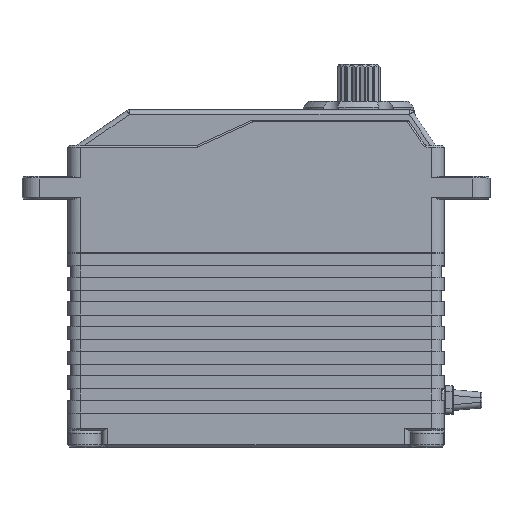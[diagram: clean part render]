
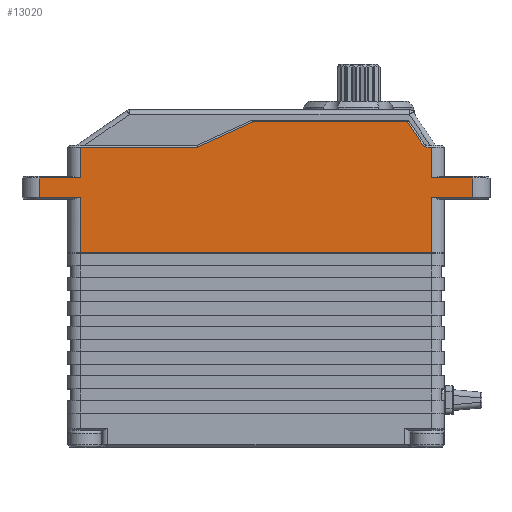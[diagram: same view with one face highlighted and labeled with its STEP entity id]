
A CAD part, top view. The second image highlights one B-rep face of the part: STEP entity #13020.
In plain terms, the highlighted planar face has unit normal (0, 0, 1).
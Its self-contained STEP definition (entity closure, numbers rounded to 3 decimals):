
#311=DIRECTION('',(0.,1.,0.));
#312=VECTOR('',#311,9.685);
#313=CARTESIAN_POINT('',(30.7,0.015,15.));
#314=LINE('',#313,#312);
#423=DIRECTION('',(1.,0.,0.));
#424=VECTOR('',#423,61.4);
#425=CARTESIAN_POINT('',(-30.7,0.015,15.));
#426=LINE('',#425,#424);
#427=DIRECTION('',(0.,1.,0.));
#428=VECTOR('',#427,9.685);
#429=CARTESIAN_POINT('',(-30.7,0.015,15.));
#430=LINE('',#429,#428);
#431=DIRECTION('',(-1.,0.,0.));
#432=VECTOR('',#431,7.2);
#433=CARTESIAN_POINT('',(-30.7,9.7,15.));
#434=LINE('',#433,#432);
#435=DIRECTION('',(0.,-1.,0.));
#436=VECTOR('',#435,3.4);
#437=CARTESIAN_POINT('',(-37.9,13.1,15.));
#438=LINE('',#437,#436);
#439=DIRECTION('',(1.,0.,0.));
#440=VECTOR('',#439,7.2);
#441=CARTESIAN_POINT('',(-37.9,13.1,15.));
#442=LINE('',#441,#440);
#443=DIRECTION('',(-1.,0.,0.));
#444=VECTOR('',#443,20.292);
#445=CARTESIAN_POINT('',(-10.408,18.5,15.));
#446=LINE('',#445,#444);
#447=CARTESIAN_POINT('',(-10.408,19.3,15.));
#448=DIRECTION('',(0.,0.,-1.));
#449=DIRECTION('',(0.414,-0.91,0.));
#450=AXIS2_PLACEMENT_3D('',#447,#448,#449);
#452=DIRECTION('',(-0.91,-0.414,0.));
#453=VECTOR('',#452,10.414);
#454=CARTESIAN_POINT('',(-0.597,22.882,15.));
#455=LINE('',#454,#453);
#456=CARTESIAN_POINT('',(-0.514,22.7,15.));
#457=DIRECTION('',(0.,0.,1.));
#458=DIRECTION('',(0.,1.,0.));
#459=AXIS2_PLACEMENT_3D('',#456,#457,#458);
#461=DIRECTION('',(-1.,0.,0.));
#462=VECTOR('',#461,26.871);
#463=CARTESIAN_POINT('',(26.357,22.9,15.));
#464=LINE('',#463,#462);
#465=CARTESIAN_POINT('',(26.357,22.7,15.));
#466=DIRECTION('',(0.,0.,1.));
#467=DIRECTION('',(0.829,0.559,0.));
#468=AXIS2_PLACEMENT_3D('',#465,#466,#467);
#470=DIRECTION('',(-0.559,0.829,0.));
#471=VECTOR('',#470,4.776);
#472=CARTESIAN_POINT('',(29.193,18.853,15.));
#473=LINE('',#472,#471);
#474=CARTESIAN_POINT('',(29.857,19.3,15.));
#475=DIRECTION('',(0.,0.,-1.));
#476=DIRECTION('',(0.,-1.,0.));
#477=AXIS2_PLACEMENT_3D('',#474,#475,#476);
#479=DIRECTION('',(-1.,0.,0.));
#480=VECTOR('',#479,0.843);
#481=CARTESIAN_POINT('',(30.7,18.5,15.));
#482=LINE('',#481,#480);
#483=DIRECTION('',(1.,0.,0.));
#484=VECTOR('',#483,7.2);
#485=CARTESIAN_POINT('',(30.7,13.1,15.));
#486=LINE('',#485,#484);
#487=DIRECTION('',(0.,1.,0.));
#488=VECTOR('',#487,3.4);
#489=CARTESIAN_POINT('',(37.9,9.7,15.));
#490=LINE('',#489,#488);
#491=DIRECTION('',(-1.,0.,0.));
#492=VECTOR('',#491,7.2);
#493=CARTESIAN_POINT('',(37.9,9.7,15.));
#494=LINE('',#493,#492);
#1587=DIRECTION('',(0.,1.,0.));
#1588=VECTOR('',#1587,5.4);
#1589=CARTESIAN_POINT('',(30.7,13.1,15.));
#1590=LINE('',#1589,#1588);
#1640=DIRECTION('',(0.,-1.,0.));
#1641=VECTOR('',#1640,5.4);
#1642=CARTESIAN_POINT('',(-30.7,18.5,15.));
#1643=LINE('',#1642,#1641);
#10315=CARTESIAN_POINT('',(37.9,13.1,15.));
#10316=VERTEX_POINT('',#10315);
#10319=CARTESIAN_POINT('',(30.7,13.1,15.));
#10320=VERTEX_POINT('',#10319);
#10321=CARTESIAN_POINT('',(37.9,9.7,15.));
#10322=CARTESIAN_POINT('',(30.7,9.7,15.));
#10323=VERTEX_POINT('',#10321);
#10324=VERTEX_POINT('',#10322);
#10409=CARTESIAN_POINT('',(-37.9,13.1,
15.));
#10410=CARTESIAN_POINT('',(-30.7,13.1,15.));
#10411=VERTEX_POINT('',#10409);
#10412=VERTEX_POINT('',#10410);
#10579=CARTESIAN_POINT('',(-37.9,9.7,15.));
#10580=VERTEX_POINT('',#10579);
#10583=CARTESIAN_POINT('',(-30.7,9.7,15.));
#10584=VERTEX_POINT('',#10583);
#10585=CARTESIAN_POINT('',(-30.7,18.5,15.));
#10587=VERTEX_POINT('',#10585);
#10645=CARTESIAN_POINT('',(30.7,18.5,15.));
#10646=VERTEX_POINT('',#10645);
#10649=CARTESIAN_POINT('',(29.857,18.5,15.));
#10650=VERTEX_POINT('',#10649);
#10653=CARTESIAN_POINT('',(29.193,18.853,15.));
#10654=VERTEX_POINT('',#10653);
#10657=CARTESIAN_POINT('',(26.523,22.812,15.));
#10658=VERTEX_POINT('',#10657);
#10661=CARTESIAN_POINT('',(26.357,22.9,15.));
#10662=VERTEX_POINT('',#10661);
#10665=CARTESIAN_POINT('',(-0.514,22.9,
15.));
#10666=VERTEX_POINT('',#10665);
#10669=CARTESIAN_POINT('',(-0.597,22.882,15.));
#10670=VERTEX_POINT('',#10669);
#10673=CARTESIAN_POINT('',(-10.077,18.572,15.));
#10674=VERTEX_POINT('',#10673);
#10677=CARTESIAN_POINT('',(-10.408,18.5,15.));
#10678=VERTEX_POINT('',#10677);
#12385=CARTESIAN_POINT('',(-30.7,0.015,15.));
#12386=CARTESIAN_POINT('',(30.7,0.015,15.));
#12387=VERTEX_POINT('',#12385);
#12388=VERTEX_POINT('',#12386);
#12974=CARTESIAN_POINT('',(-32.9,0.,15.));
#12975=DIRECTION('',(0.,0.,1.));
#12976=DIRECTION('',(1.,0.,0.));
#12977=AXIS2_PLACEMENT_3D('',#12974,#12975,#12976);
#12978=PLANE('',#12977);
#12980=ORIENTED_EDGE('',*,*,#12979,.F.);
#12982=ORIENTED_EDGE('',*,*,#12981,.T.);
#12984=ORIENTED_EDGE('',*,*,#12983,.T.);
#12986=ORIENTED_EDGE('',*,*,#12985,.F.);
#12988=ORIENTED_EDGE('',*,*,#12987,.T.);
#12990=ORIENTED_EDGE('',*,*,#12989,.F.);
#12992=ORIENTED_EDGE('',*,*,#12991,.F.);
#12994=ORIENTED_EDGE('',*,*,#12993,.F.);
#12996=ORIENTED_EDGE('',*,*,#12995,.F.);
#12998=ORIENTED_EDGE('',*,*,#12997,.F.);
#13000=ORIENTED_EDGE('',*,*,#12999,.F.);
#13002=ORIENTED_EDGE('',*,*,#13001,.F.);
#13004=ORIENTED_EDGE('',*,*,#13003,.F.);
#13006=ORIENTED_EDGE('',*,*,#13005,.F.);
#13008=ORIENTED_EDGE('',*,*,#13007,.F.);
#13010=ORIENTED_EDGE('',*,*,#13009,.F.);
#13012=ORIENTED_EDGE('',*,*,#13011,.T.);
#13014=ORIENTED_EDGE('',*,*,#13013,.F.);
#13016=ORIENTED_EDGE('',*,*,#13015,.T.);
#13017=ORIENTED_EDGE('',*,*,#12842,.F.);
#13018=EDGE_LOOP('',(#12980,#12982,#12984,#12986,#12988,#12990,#12992,#12994,
#12996,#12998,#13000,#13002,#13004,#13006,#13008,#13010,#13012,#13014,#13016,
#13017));
#13019=FACE_OUTER_BOUND('',#13018,.F.);
#451=CIRCLE('',#450,0.8);
#460=CIRCLE('',#459,0.2);
#469=CIRCLE('',#468,0.2);
#478=CIRCLE('',#477,0.8);
#12842=EDGE_CURVE('',#12388,#10324,#314,.T.);
#12979=EDGE_CURVE('',#12387,#12388,#426,.T.);
#12981=EDGE_CURVE('',#12387,#10584,#430,.T.);
#12983=EDGE_CURVE('',#10584,#10580,#434,.T.);
#12985=EDGE_CURVE('',#10411,#10580,#438,.T.);
#12987=EDGE_CURVE('',#10411,#10412,#442,.T.);
#12989=EDGE_CURVE('',#10587,#10412,#1643,.T.);
#12991=EDGE_CURVE('',#10678,#10587,#446,.T.);
#12993=EDGE_CURVE('',#10674,#10678,#451,.T.);
#12995=EDGE_CURVE('',#10670,#10674,#455,.T.);
#12997=EDGE_CURVE('',#10666,#10670,#460,.T.);
#12999=EDGE_CURVE('',#10662,#10666,#464,.T.);
#13001=EDGE_CURVE('',#10658,#10662,#469,.T.);
#13003=EDGE_CURVE('',#10654,#10658,#473,.T.);
#13005=EDGE_CURVE('',#10650,#10654,#478,.T.);
#13007=EDGE_CURVE('',#10646,#10650,#482,.T.);
#13009=EDGE_CURVE('',#10320,#10646,#1590,.T.);
#13011=EDGE_CURVE('',#10320,#10316,#486,.T.);
#13013=EDGE_CURVE('',#10323,#10316,#490,.T.);
#13015=EDGE_CURVE('',#10323,#10324,#494,.T.);
#13020=ADVANCED_FACE('',(#13019),#12978,.T.);
